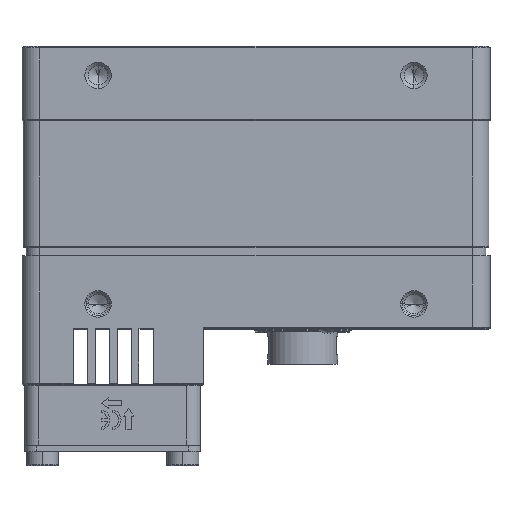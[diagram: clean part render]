
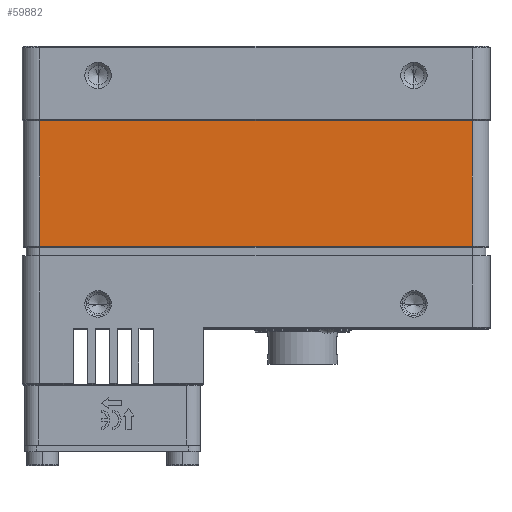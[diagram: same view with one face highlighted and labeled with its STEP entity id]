
A CAD part, top view. The second image highlights one B-rep face of the part: STEP entity #59882.
In plain terms, the highlighted planar face has unit normal (0, 0, 1).
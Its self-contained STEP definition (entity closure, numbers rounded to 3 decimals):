
#15349=DIRECTION('',(1.,0.,0.));
#15350=VECTOR('',#15349,74.);
#15351=CARTESIAN_POINT('',(-37.,-12.,39.8));
#15352=LINE('',#15351,#15350);
#15363=DIRECTION('',(0.,-1.,0.));
#15364=VECTOR('',#15363,21.52);
#15365=CARTESIAN_POINT('',(37.,-12.,39.8));
#15366=LINE('',#15365,#15364);
#15370=DIRECTION('',(1.,0.,0.));
#15371=VECTOR('',#15370,74.);
#15372=CARTESIAN_POINT('',(-37.,-33.52,
39.8));
#15373=LINE('',#15372,#15371);
#15377=DIRECTION('',(0.,-1.,0.));
#15378=VECTOR('',#15377,21.52);
#15379=CARTESIAN_POINT('',(-37.,-12.,39.8));
#15380=LINE('',#15379,#15378);
#40124=CARTESIAN_POINT('',(-37.,-33.52,39.8));
#40125=VERTEX_POINT('',#40124);
#40128=CARTESIAN_POINT('',(37.,-33.52,
39.8));
#40129=VERTEX_POINT('',#40128);
#40148=CARTESIAN_POINT('',(-37.,-12.,39.8));
#40149=CARTESIAN_POINT('',(37.,-12.,39.8));
#40150=VERTEX_POINT('',#40148);
#40151=VERTEX_POINT('',#40149);
#59869=CARTESIAN_POINT('',(-40.,0.,39.8));
#59870=DIRECTION('',(0.,0.,1.));
#59871=DIRECTION('',(1.,0.,0.));
#59872=AXIS2_PLACEMENT_3D('',#59869,#59870,#59871);
#59873=PLANE('',#59872);
#59874=ORIENTED_EDGE('',*,*,#59852,.T.);
#59875=ORIENTED_EDGE('',*,*,#59814,.T.);
#59877=ORIENTED_EDGE('',*,*,#59876,.F.);
#59879=ORIENTED_EDGE('',*,*,#59878,.F.);
#59880=EDGE_LOOP('',(#59874,#59875,#59877,#59879));
#59881=FACE_OUTER_BOUND('',#59880,.F.);
#59882=ADVANCED_FACE('',(#59881),#59873,.T.);
#59814=EDGE_CURVE('',#40151,#40129,#15366,.T.);
#59852=EDGE_CURVE('',#40150,#40151,#15352,.T.);
#59876=EDGE_CURVE('',#40125,#40129,#15373,.T.);
#59878=EDGE_CURVE('',#40150,#40125,#15380,.T.);
